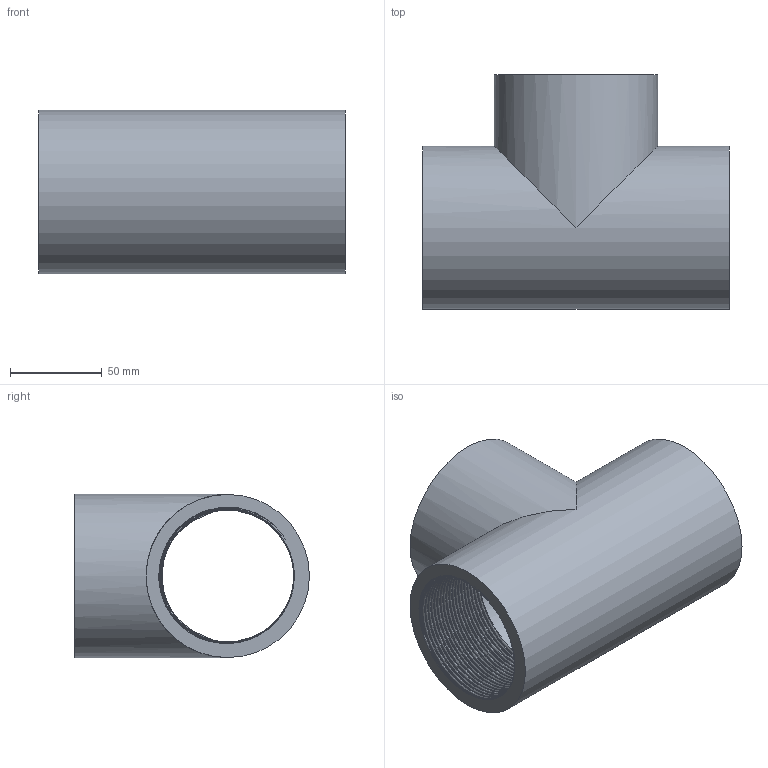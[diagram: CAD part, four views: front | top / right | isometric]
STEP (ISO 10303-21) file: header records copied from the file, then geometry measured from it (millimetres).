
FILE_DESCRIPTION(/* description */ ('(descrizione)'),/* implementation_level */ '2;1');
FILE_NAME(/* name */ 'C:\Users\POLYPIPE\Desktop\DATASET INVENTOR\LIBRERIA EFFAST\RACCORDI 3DxWEB\RER\3D_RERTIE\3D_RERTIE075H.stp',/* time_stamp */ '2018-01-19T17:21:14+01:00',/* author */ ('POLYPIPE'),/* organization */ ('Polypipe Italia s.r.l.'),/* preprocessor_version */ 'ST-DEVELOPER v16.1',/* originating_system */ 'Autodesk Inventor 2016',/* authorisation */ '');
FILE_SCHEMA (('CONFIG_CONTROL_DESIGN'));
Length unit declared in the file: millimetre
Products named in the file (1): 3D_RERTIE
Bounding box: 167 x 128 x 89 mm (x, y, z)
Volume: 399378.7 mm3; surface area: 129419.4 mm2
Topology: 1 solids, 1 shells, 25 faces, 67 edges, 44 vertices
Faces by surface type: bspline 15, plane 6, cylinder 4
Full cylindrical faces by diameter (mm): 72.226 x2, 89 x2
Entity records: 22655 total; most frequent: CARTESIAN_POINT 22138, ORIENTED_EDGE 116, DIRECTION 63, EDGE_CURVE 58, VERTEX_POINT 40, EDGE_LOOP 34, B_SPLINE_CURVE_WITH_KNOTS 33, AXIS2_PLACEMENT_3D 27
